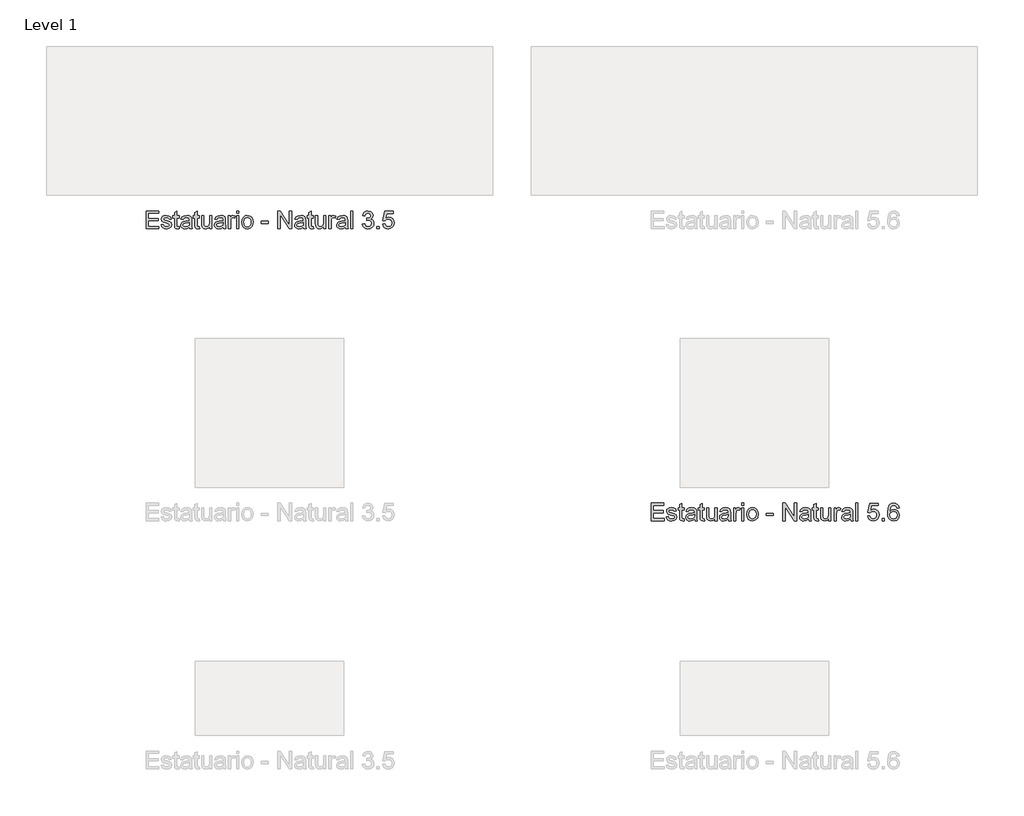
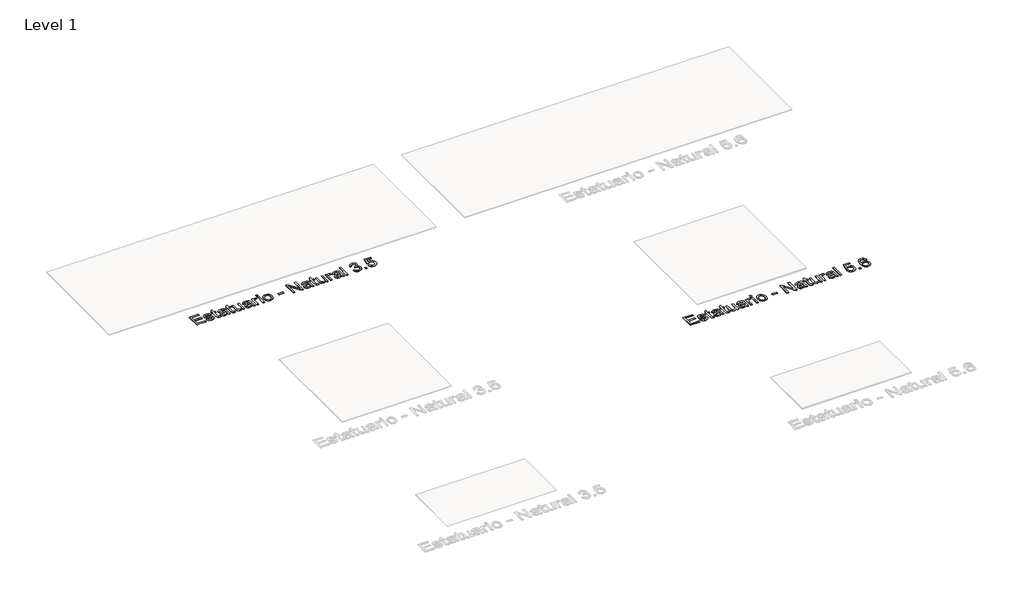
# One storey, part 79 of 80: 2 proxies.
"""IFC4 building model written with IfcOpenShell, lengths in millimetres."""

from ifc_helpers import new_model, si_unit, origin, origin_with_axes, place, context, project, spatial, polyline, outline, extrude, element, save

model = new_model("IFC4")

# Units and contexts
model_context = context("Model", 3, world=origin())
ifc_project = project(units=[si_unit("LENGTHUNIT", "METRE", prefix="MILLI")], contexts=[model_context])

# Site, building, storey
site = spatial("IfcSite", under=ifc_project)
building = spatial("IfcBuilding", under=site)
storey = spatial("IfcBuildingStorey", under=building, Name="Level 1", Elevation=0.0)

# Proxies
placement = place(None, origin())
element("IfcBuildingElementProxy", 1, Name="24\" Arial", ObjectType="24\" Arial", at=placement, inside=storey, context=model_context, shape_type="SweptSolid", body=[
    extrude(outline(polyline([(15900.3085075, 17258.6980297), (15900.3085075, 17376.8518759), (15985.2315844, 17376.8518759), (15985.2315844, 17362.0826451), (15915.0777383, 17362.0826451), (15915.0777383, 17327.005722), (15981.5392767, 17327.005722), (15981.5392767, 17312.2364912), (15915.0777383, 17312.2364912), (15915.0777383, 17273.4672605), (15987.0777383, 17273.4672605), (15987.0777383, 17258.6980297), (15900.3085075, 17258.6980297)])), origin_with_axes(), (0.0, 0.0, 1.0), 2.0),
    extrude(outline(polyline([(16001.846969, 17284.5441836), (16016.6161998, 17286.3903374), (16023.4527383, 17275.4287989), (16039.1161998, 17271.6211066), (16054.1738921, 17275.1114912), (16059.0777383, 17283.3037989), (16054.1450459, 17289.9384143), (16038.9431229, 17294.1499528), (16016.7027383, 17301.3759143), (16006.9960075, 17309.8134143), (16003.6931229, 17321.7268759), (16006.346969, 17332.7316836), (16013.5873536, 17341.1403374), (16022.9767767, 17345.5105297), (16035.6835075, 17347.3134143), (16053.6546613, 17344.4143759), (16065.0777383, 17336.568222), (16070.1546613, 17323.3134143), (16055.3854306, 17321.4672605), (16049.8325459, 17329.6162989), (16036.8373536, 17332.5441836), (16022.7027383, 17329.7461066), (16018.4623536, 17323.2268759), (16020.221969, 17318.9287989), (16025.7315844, 17315.6691836), (16038.4527383, 17312.5249528), (16060.1306229, 17305.5730297), (16070.1979306, 17297.6980297), (16073.846969, 17284.8614912), (16069.5633152, 17270.7268759), (16057.2027383, 17260.4720682), (16038.9142767, 17256.8518759), (16024.0224498, 17258.5970682), (16013.1546613, 17263.8326451), (16005.8998536, 17272.5009143), (16001.846969, 17284.5441836)])), origin_with_axes(), (0.0, 0.0, 1.0), 2.0),
    extrude(outline(polyline([(16121.846969, 17271.0153374), (16123.6931229, 17258.2653374), (16112.6450459, 17256.8518759), (16100.2700459, 17259.3037989), (16094.096969, 17265.7364912), (16092.3085075, 17282.4961066), (16092.3085075, 17330.6980297), (16081.2315844, 17330.6980297), (16081.2315844, 17345.4672605), (16092.3085075, 17345.4672605), (16092.3085075, 17366.5537989), (16107.0777383, 17375.2364912), (16107.0777383, 17345.4672605), (16121.846969, 17345.4672605), (16121.846969, 17330.6980297), (16107.0777383, 17330.6980297), (16107.0777383, 17282.9287989), (16107.8565844, 17275.3134143), (16110.3806229, 17272.6162989), (16115.4142767, 17271.6211066), (16121.846969, 17271.0153374)])), origin_with_axes(), (0.0, 0.0, 1.0), 2.0),
    extrude(outline(polyline([(16192.0008152, 17269.7749528), (16177.6786998, 17259.7653374), (16161.8565844, 17256.8518759), (16149.5140363, 17258.6042797), (16140.409469, 17263.8614912), (16134.7952863, 17271.8446643), (16132.9238921, 17281.7749528), (16135.7508152, 17293.4576451), (16143.1786998, 17301.9384143), (16153.5200459, 17306.7845682), (16166.2988921, 17309.005722), (16191.9142767, 17314.0826451), (16192.0008152, 17317.3711066), (16187.9335075, 17328.2749528), (16171.6065844, 17332.5441836), (16156.6642767, 17329.7028374), (16149.5392767, 17319.6211066), (16134.7700459, 17321.4672605), (16141.159469, 17335.8903374), (16154.0248536, 17344.3422605), (16173.5104306, 17347.3134143), (16191.409469, 17344.6884143), (16201.5200459, 17338.0970682), (16206.0488921, 17328.0730297), (16206.7700459, 17315.1499528), (16206.7700459, 17296.7749528), (16207.5200459, 17271.1162989), (16210.4623536, 17258.6980297), (16195.6931229, 17258.6980297), (16192.0008152, 17269.7749528)]), holes=[polyline([(16192.0008152, 17299.3134143), (16168.1738921, 17294.7845682), (16155.4671613, 17292.3903374), (16149.7123536, 17288.4961066), (16147.6931229, 17282.8134143), (16152.0921613, 17274.8230297), (16165.0008152, 17271.6211066), (16179.9431229, 17275.1547605), (16189.5777383, 17283.7076451), (16191.9142767, 17295.130722), (16192.0008152, 17299.3134143)])]), origin_with_axes(), (0.0, 0.0, 1.0), 2.0),
    extrude(outline(polyline([(16258.4623536, 17271.0153374), (16260.3085075, 17258.2653374), (16249.2604306, 17256.8518759), (16236.8854306, 17259.3037989), (16230.7123536, 17265.7364912), (16228.9238921, 17282.4961066), (16228.9238921, 17330.6980297), (16217.846969, 17330.6980297), (16217.846969, 17345.4672605), (16228.9238921, 17345.4672605), (16228.9238921, 17366.5537989), (16243.6931229, 17375.2364912), (16243.6931229, 17345.4672605), (16258.4623536, 17345.4672605), (16258.4623536, 17330.6980297), (16243.6931229, 17330.6980297), (16243.6931229, 17282.9287989), (16244.471969, 17275.3134143), (16246.9960075, 17272.6162989), (16252.0296613, 17271.6211066), (16258.4623536, 17271.0153374)])), origin_with_axes(), (0.0, 0.0, 1.0), 2.0),
    extrude(outline(polyline([(16328.6161998, 17258.6980297), (16328.6161998, 17273.6114912), (16317.0488921, 17261.0417797), (16301.9623536, 17256.8518759), (16288.0729306, 17259.7941836), (16278.4960075, 17267.1787989), (16274.096969, 17278.0537989), (16273.2315844, 17291.7845682), (16273.2315844, 17345.4672605), (16288.0008152, 17345.4672605), (16288.0008152, 17298.7364912), (16288.8950459, 17283.6787989), (16294.7363921, 17274.8374528), (16305.7411998, 17271.6211066), (16318.0729306, 17274.9095682), (16326.221969, 17283.8662989), (16328.6161998, 17300.3230297), (16328.6161998, 17345.4672605), (16343.3854306, 17345.4672605), (16343.3854306, 17258.6980297), (16328.6161998, 17258.6980297)])), origin_with_axes(), (0.0, 0.0, 1.0), 2.0),
    extrude(outline(polyline([(16419.0777383, 17269.7749528), (16404.7556229, 17259.7653374), (16388.9335075, 17256.8518759), (16376.5909594, 17258.6042797), (16367.4863921, 17263.8614912), (16361.8722094, 17271.8446643), (16360.0008152, 17281.7749528), (16362.8277383, 17293.4576451), (16370.2556229, 17301.9384143), (16380.596969, 17306.7845682), (16393.3758152, 17309.005722), (16418.9911998, 17314.0826451), (16419.0777383, 17317.3711066), (16415.0104306, 17328.2749528), (16398.6835075, 17332.5441836), (16383.7411998, 17329.7028374), (16376.6161998, 17319.6211066), (16361.846969, 17321.4672605), (16368.2363921, 17335.8903374), (16381.1017767, 17344.3422605), (16400.5873536, 17347.3134143), (16418.4863921, 17344.6884143), (16428.596969, 17338.0970682), (16433.1258152, 17328.0730297), (16433.846969, 17315.1499528), (16433.846969, 17296.7749528), (16434.596969, 17271.1162989), (16437.5392767, 17258.6980297), (16422.7700459, 17258.6980297), (16419.0777383, 17269.7749528)]), holes=[polyline([(16419.0777383, 17299.3134143), (16395.2508152, 17294.7845682), (16382.5440844, 17292.3903374), (16376.7892767, 17288.4961066), (16374.7700459, 17282.8134143), (16379.1690844, 17274.8230297), (16392.0777383, 17271.6211066), (16407.0200459, 17275.1547605), (16416.6546613, 17283.7076451), (16418.9911998, 17295.130722), (16419.0777383, 17299.3134143)])]), origin_with_axes(), (0.0, 0.0, 1.0), 2.0),
    extrude(outline(polyline([(16454.1546613, 17258.6980297), (16454.1546613, 17345.4672605), (16467.0777383, 17345.4672605), (16467.0777383, 17332.630722), (16476.2508152, 17344.4576451), (16485.4815844, 17347.3134143), (16500.3085075, 17342.755722), (16495.3758152, 17329.5153374), (16484.9911998, 17332.5441836), (16476.6402383, 17329.630722), (16471.3181229, 17321.5537989), (16468.9238921, 17304.3037989), (16468.9238921, 17258.6980297), (16454.1546613, 17258.6980297)])), origin_with_axes(), (0.0, 0.0, 1.0), 2.0),
    extrude(outline(polyline([(16509.5392767, 17362.0826451), (16509.5392767, 17376.8518759), (16524.3085075, 17376.8518759), (16524.3085075, 17362.0826451), (16509.5392767, 17362.0826451)])), origin_with_axes(), (0.0, 0.0, 1.0), 2.0),
    extrude(outline(polyline([(16509.5392767, 17258.6980297), (16509.5392767, 17345.4672605), (16524.3085075, 17345.4672605), (16524.3085075, 17258.6980297), (16509.5392767, 17258.6980297)])), origin_with_axes(), (0.0, 0.0, 1.0), 2.0),
    extrude(outline(polyline([(16542.7700459, 17302.0826451), (16545.9647575, 17323.0033182), (16555.5488921, 17337.7076451), (16567.3902383, 17344.911972), (16581.5681229, 17347.3134143), (16597.0837479, 17344.3891355), (16609.4767767, 17335.6162989), (16617.6005748, 17321.6872124), (16620.3085075, 17303.2941836), (16615.5200459, 17277.0153374), (16601.5729306, 17262.1451451), (16581.5681229, 17256.8518759), (16565.8649979, 17259.7653374), (16553.4863921, 17268.505722), (16545.4491325, 17282.7268759), (16542.7700459, 17302.0826451)]), holes=[polyline([(16557.5392767, 17302.1114912), (16559.2484113, 17288.7449047), (16564.3758152, 17279.2220682), (16572.0921613, 17273.521347), (16581.5681229, 17271.6211066), (16591.0008152, 17273.5321643), (16598.7027383, 17279.2653374), (16603.8301421, 17288.9143759), (16605.5392767, 17302.5730297), (16603.8193248, 17315.5501932), (16598.659469, 17324.943222), (16590.9467286, 17330.6439432), (16581.5681229, 17332.5441836), (16572.0921613, 17330.6511547), (16564.3758152, 17324.9720682), (16559.2484113, 17315.4708662), (16557.5392767, 17302.1114912)])]), origin_with_axes(), (0.0, 0.0, 1.0), 2.0),
    extrude(outline(polyline([(16675.6931229, 17293.7749528), (16675.6931229, 17308.5441836), (16721.846969, 17308.5441836), (16721.846969, 17293.7749528), (16675.6931229, 17293.7749528)])), origin_with_axes(), (0.0, 0.0, 1.0), 2.0),
    extrude(outline(polyline([(16786.4623536, 17258.6980297), (16786.4623536, 17376.8518759), (16802.2700459, 17376.8518759), (16864.0008152, 17283.2461066), (16864.0008152, 17376.8518759), (16878.7700459, 17376.8518759), (16878.7700459, 17258.6980297), (16862.9623536, 17258.6980297), (16801.2315844, 17352.3326451), (16801.2315844, 17258.6980297), (16786.4623536, 17258.6980297)])), origin_with_axes(), (0.0, 0.0, 1.0), 2.0),
    extrude(outline(polyline([(16958.1546613, 17269.7749528), (16943.8325459, 17259.7653374), (16928.0104306, 17256.8518759), (16915.6678825, 17258.6042797), (16906.5633152, 17263.8614912), (16900.9491325, 17271.8446643), (16899.0777383, 17281.7749528), (16901.9046613, 17293.4576451), (16909.3325459, 17301.9384143), (16919.6738921, 17306.7845682), (16932.4527383, 17309.005722), (16958.0681229, 17314.0826451), (16958.1546613, 17317.3711066), (16954.0873536, 17328.2749528), (16937.7604306, 17332.5441836), (16922.8181229, 17329.7028374), (16915.6931229, 17319.6211066), (16900.9238921, 17321.4672605), (16907.3133152, 17335.8903374), (16920.1786998, 17344.3422605), (16939.6642767, 17347.3134143), (16957.5633152, 17344.6884143), (16967.6738921, 17338.0970682), (16972.2027383, 17328.0730297), (16972.9238921, 17315.1499528), (16972.9238921, 17296.7749528), (16973.6738921, 17271.1162989), (16976.6161998, 17258.6980297), (16961.846969, 17258.6980297), (16958.1546613, 17269.7749528)]), holes=[polyline([(16958.1546613, 17299.3134143), (16934.3277383, 17294.7845682), (16921.6210075, 17292.3903374), (16915.8661998, 17288.4961066), (16913.846969, 17282.8134143), (16918.2460075, 17274.8230297), (16931.1546613, 17271.6211066), (16946.096969, 17275.1547605), (16955.7315844, 17283.7076451), (16958.0681229, 17295.130722), (16958.1546613, 17299.3134143)])]), origin_with_axes(), (0.0, 0.0, 1.0), 2.0),
    extrude(outline(polyline([(17024.6161998, 17271.0153374), (17026.4623536, 17258.2653374), (17015.4142767, 17256.8518759), (17003.0392767, 17259.3037989), (16996.8661998, 17265.7364912), (16995.0777383, 17282.4961066), (16995.0777383, 17330.6980297), (16984.0008152, 17330.6980297), (16984.0008152, 17345.4672605), (16995.0777383, 17345.4672605), (16995.0777383, 17366.5537989), (17009.846969, 17375.2364912), (17009.846969, 17345.4672605), (17024.6161998, 17345.4672605), (17024.6161998, 17330.6980297), (17009.846969, 17330.6980297), (17009.846969, 17282.9287989), (17010.6258152, 17275.3134143), (17013.1498536, 17272.6162989), (17018.1835075, 17271.6211066), (17024.6161998, 17271.0153374)])), origin_with_axes(), (0.0, 0.0, 1.0), 2.0),
    extrude(outline(polyline([(17094.7700459, 17258.6980297), (17094.7700459, 17273.6114912), (17083.2027383, 17261.0417797), (17068.1161998, 17256.8518759), (17054.2267767, 17259.7941836), (17044.6498536, 17267.1787989), (17040.2508152, 17278.0537989), (17039.3854306, 17291.7845682), (17039.3854306, 17345.4672605), (17054.1546613, 17345.4672605), (17054.1546613, 17298.7364912), (17055.0488921, 17283.6787989), (17060.8902383, 17274.8374528), (17071.8950459, 17271.6211066), (17084.2267767, 17274.9095682), (17092.3758152, 17283.8662989), (17094.7700459, 17300.3230297), (17094.7700459, 17345.4672605), (17109.5392767, 17345.4672605), (17109.5392767, 17258.6980297), (17094.7700459, 17258.6980297)])), origin_with_axes(), (0.0, 0.0, 1.0), 2.0),
    extrude(outline(polyline([(17129.846969, 17258.6980297), (17129.846969, 17345.4672605), (17142.7700459, 17345.4672605), (17142.7700459, 17332.630722), (17151.9431229, 17344.4576451), (17161.1738921, 17347.3134143), (17176.0008152, 17342.755722), (17171.0681229, 17329.5153374), (17160.6835075, 17332.5441836), (17152.3325459, 17329.630722), (17147.0104306, 17321.5537989), (17144.6161998, 17304.3037989), (17144.6161998, 17258.6980297), (17129.846969, 17258.6980297)])), origin_with_axes(), (0.0, 0.0, 1.0), 2.0),
    extrude(outline(polyline([(17240.6161998, 17269.7749528), (17226.2940844, 17259.7653374), (17210.471969, 17256.8518759), (17198.1294209, 17258.6042797), (17189.0248536, 17263.8614912), (17183.4106709, 17271.8446643), (17181.5392767, 17281.7749528), (17184.3661998, 17293.4576451), (17191.7940844, 17301.9384143), (17202.1354306, 17306.7845682), (17214.9142767, 17309.005722), (17240.5296613, 17314.0826451), (17240.6161998, 17317.3711066), (17236.5488921, 17328.2749528), (17220.221969, 17332.5441836), (17205.2796613, 17329.7028374), (17198.1546613, 17319.6211066), (17183.3854306, 17321.4672605), (17189.7748536, 17335.8903374), (17202.6402383, 17344.3422605), (17222.1258152, 17347.3134143), (17240.0248536, 17344.6884143), (17250.1354306, 17338.0970682), (17254.6642767, 17328.0730297), (17255.3854306, 17315.1499528), (17255.3854306, 17296.7749528), (17256.1354306, 17271.1162989), (17259.0777383, 17258.6980297), (17244.3085075, 17258.6980297), (17240.6161998, 17269.7749528)]), holes=[polyline([(17240.6161998, 17299.3134143), (17216.7892767, 17294.7845682), (17204.0825459, 17292.3903374), (17198.3277383, 17288.4961066), (17196.3085075, 17282.8134143), (17200.7075459, 17274.8230297), (17213.6161998, 17271.6211066), (17228.5585075, 17275.1547605), (17238.1931229, 17283.7076451), (17240.5296613, 17295.130722), (17240.6161998, 17299.3134143)])]), origin_with_axes(), (0.0, 0.0, 1.0), 2.0),
    extrude(outline(polyline([(17275.6931229, 17258.6980297), (17275.6931229, 17376.8518759), (17290.4623536, 17376.8518759), (17290.4623536, 17258.6980297), (17275.6931229, 17258.6980297)])), origin_with_axes(), (0.0, 0.0, 1.0), 2.0),
    extrude(outline(polyline([(17355.0777383, 17290.0826451), (17369.846969, 17291.9287989), (17377.2892767, 17276.7124528), (17392.721969, 17271.6211066), (17403.3085075, 17273.3915393), (17411.2411998, 17278.7028374), (17416.1955267, 17286.9420201), (17417.846969, 17297.4961066), (17416.300094, 17307.4336066), (17411.659469, 17315.0345682), (17403.8890363, 17319.8590874), (17392.9527383, 17321.4672605), (17379.9863921, 17318.8999528), (17371.6931229, 17312.2364912), (17356.9238921, 17314.0826451), (17369.846969, 17375.005722), (17427.0777383, 17375.005722), (17427.0777383, 17360.2364912), (17381.7892767, 17360.2364912), (17375.471969, 17327.6980297), (17386.0224498, 17334.1018759), (17397.0777383, 17336.2364912), (17410.8770171, 17333.5898566), (17422.3325459, 17325.6499528), (17430.0452863, 17313.5489912), (17432.6161998, 17298.4191836), (17430.3012959, 17283.6499528), (17423.3565844, 17271.0153374), (17410.0585075, 17260.3927412), (17392.6642767, 17256.8518759), (17378.1582671, 17259.1271162), (17366.6017767, 17265.9528374), (17358.6799017, 17276.5357701), (17355.0777383, 17290.0826451)])), origin_with_axes(), (0.0, 0.0, 1.0), 2.0),
    extrude(outline(polyline([(17452.9238921, 17258.6980297), (17452.9238921, 17273.4672605), (17467.6931229, 17273.4672605), (17467.6931229, 17258.6980297), (17452.9238921, 17258.6980297)])), origin_with_axes(), (0.0, 0.0, 1.0), 2.0),
    extrude(outline(polyline([(17567.3854306, 17345.4672605), (17552.6161998, 17343.6211066), (17547.0200459, 17355.9384143), (17540.3205267, 17360.5465874), (17532.221969, 17362.0826451), (17518.8950459, 17358.505722), (17508.8133152, 17345.0778374), (17504.6161998, 17318.755722), (17517.6402383, 17330.5393759), (17533.7796613, 17334.3903374), (17547.4238921, 17331.7581259), (17558.8758152, 17323.8614912), (17566.6426421, 17311.7965874), (17569.2315844, 17296.6595682), (17564.3565844, 17276.2797605), (17550.9431229, 17261.8566836), (17531.5873536, 17256.8518759), (17514.831344, 17260.1691836), (17501.4863921, 17270.1211066), (17492.7568248, 17287.6884143), (17489.846969, 17313.8518759), (17493.0777383, 17343.2677412), (17502.7700459, 17363.380722), (17516.003219, 17373.4840874), (17533.1450459, 17376.8518759), (17546.1041806, 17374.7677412), (17556.4815844, 17368.5153374), (17563.7508152, 17358.5850489), (17567.3854306, 17345.4672605)]), holes=[polyline([(17504.6161998, 17296.8903374), (17508.034469, 17284.0970682), (17517.1210075, 17274.8086066), (17530.4335075, 17271.6211066), (17540.1799017, 17273.2725489), (17547.8421613, 17278.2268759), (17552.8073056, 17286.0153374), (17554.4623536, 17296.1691836), (17552.8289402, 17305.9155778), (17547.9286998, 17313.3470682), (17540.1366325, 17318.052597), (17529.8277383, 17319.6211066), (17520.0957671, 17318.052597), (17511.9575459, 17313.3470682), (17506.4515363, 17306.0958662), (17504.6161998, 17296.8903374)])]), origin_with_axes(), (0.0, 0.0, 1.0), 2.0),
])
element("IfcBuildingElementProxy", 2, Name="24\" Arial", ObjectType="24\" Arial", at=placement, inside=storey, context=model_context, shape_type="SweptSolid", body=[
    extrude(outline(polyline([(12503.6931229, 19224.0250725), (12503.6931229, 19342.1789187), (12588.6161998, 19342.1789187), (12588.6161998, 19327.4096879), (12518.4623536, 19327.4096879), (12518.4623536, 19292.3327648), (12584.9238921, 19292.3327648), (12584.9238921, 19277.563534), (12518.4623536, 19277.563534), (12518.4623536, 19238.7943033), (12590.4623536, 19238.7943033), (12590.4623536, 19224.0250725), (12503.6931229, 19224.0250725)])), origin_with_axes(), (0.0, 0.0, 1.0), 2.0),
    extrude(outline(polyline([(12605.2315844, 19249.8712264), (12620.0008152, 19251.7173802), (12626.8373536, 19240.7558417), (12642.5008152, 19236.9481494), (12657.5585075, 19240.438534), (12662.4623536, 19248.6308417), (12657.5296613, 19255.2654571), (12642.3277383, 19259.4769956), (12620.0873536, 19266.7029571), (12610.3806229, 19275.1404571), (12607.0777383, 19287.0539187), (12609.7315844, 19298.0587264), (12616.971969, 19306.4673802), (12626.3613921, 19310.8375725), (12639.0681229, 19312.6404571), (12657.0392767, 19309.7414187), (12668.4623536, 19301.8952648), (12673.5392767, 19288.6404571), (12658.7700459, 19286.7943033), (12653.2171613, 19294.9433417), (12640.221969, 19297.8712264), (12626.0873536, 19295.0731494), (12621.846969, 19288.5539187), (12623.6065844, 19284.2558417), (12629.1161998, 19280.9962264), (12641.8373536, 19277.8519956), (12663.5152383, 19270.9000725), (12673.5825459, 19263.0250725), (12677.2315844, 19250.188534), (12672.9479306, 19236.0539187), (12660.5873536, 19225.799111), (12642.2988921, 19222.1789187), (12627.4070652, 19223.924111), (12616.5392767, 19229.1596879), (12609.284469, 19237.8279571), (12605.2315844, 19249.8712264)])), origin_with_axes(), (0.0, 0.0, 1.0), 2.0),
    extrude(outline(polyline([(12725.2315844, 19236.3423802), (12727.0777383, 19223.5923802), (12716.0296613, 19222.1789187), (12703.6546613, 19224.6308417), (12697.4815844, 19231.063534), (12695.6931229, 19247.8231494), (12695.6931229, 19296.0250725), (12684.6161998, 19296.0250725), (12684.6161998, 19310.7943033), (12695.6931229, 19310.7943033), (12695.6931229, 19331.8808417), (12710.4623536, 19340.563534), (12710.4623536, 19310.7943033), (12725.2315844, 19310.7943033), (12725.2315844, 19296.0250725), (12710.4623536, 19296.0250725), (12710.4623536, 19248.2558417), (12711.2411998, 19240.6404571), (12713.7652383, 19237.9433417), (12718.7988921, 19236.9481494), (12725.2315844, 19236.3423802)])), origin_with_axes(), (0.0, 0.0, 1.0), 2.0),
    extrude(outline(polyline([(12795.3854306, 19235.1019956), (12781.0633152, 19225.0923802), (12765.2411998, 19222.1789187), (12752.8986517, 19223.9313225), (12743.7940844, 19229.188534), (12738.1799017, 19237.1717071), (12736.3085075, 19247.1019956), (12739.1354306, 19258.7846879), (12746.5633152, 19267.2654571), (12756.9046613, 19272.111611), (12769.6835075, 19274.3327648), (12795.2988921, 19279.4096879), (12795.3854306, 19282.6981494), (12791.3181229, 19293.6019956), (12774.9911998, 19297.8712264), (12760.0488921, 19295.0298802), (12752.9238921, 19284.9481494), (12738.1546613, 19286.7943033), (12744.5440844, 19301.2173802), (12757.409469, 19309.6693033), (12776.8950459, 19312.6404571), (12794.7940844, 19310.0154571), (12804.9046613, 19303.424111), (12809.4335075, 19293.4000725), (12810.1546613, 19280.4769956), (12810.1546613, 19262.1019956), (12810.9046613, 19236.4433417), (12813.846969, 19224.0250725), (12799.0777383, 19224.0250725), (12795.3854306, 19235.1019956)]), holes=[polyline([(12795.3854306, 19264.6404571), (12771.5585075, 19260.111611), (12758.8517767, 19257.7173802), (12753.096969, 19253.8231494), (12751.0777383, 19248.1404571), (12755.4767767, 19240.1500725), (12768.3854306, 19236.9481494), (12783.3277383, 19240.4818033), (12792.9623536, 19249.0346879), (12795.2988921, 19260.4577648), (12795.3854306, 19264.6404571)])]), origin_with_axes(), (0.0, 0.0, 1.0), 2.0),
    extrude(outline(polyline([(12861.846969, 19236.3423802), (12863.6931229, 19223.5923802), (12852.6450459, 19222.1789187), (12840.2700459, 19224.6308417), (12834.096969, 19231.063534), (12832.3085075, 19247.8231494), (12832.3085075, 19296.0250725), (12821.2315844, 19296.0250725), (12821.2315844, 19310.7943033), (12832.3085075, 19310.7943033), (12832.3085075, 19331.8808417), (12847.0777383, 19340.563534), (12847.0777383, 19310.7943033), (12861.846969, 19310.7943033), (12861.846969, 19296.0250725), (12847.0777383, 19296.0250725), (12847.0777383, 19248.2558417), (12847.8565844, 19240.6404571), (12850.3806229, 19237.9433417), (12855.4142767, 19236.9481494), (12861.846969, 19236.3423802)])), origin_with_axes(), (0.0, 0.0, 1.0), 2.0),
    extrude(outline(polyline([(12932.0008152, 19224.0250725), (12932.0008152, 19238.938534), (12920.4335075, 19226.3688225), (12905.346969, 19222.1789187), (12891.4575459, 19225.1212264), (12881.8806229, 19232.5058417), (12877.4815844, 19243.3808417), (12876.6161998, 19257.111611), (12876.6161998, 19310.7943033), (12891.3854306, 19310.7943033), (12891.3854306, 19264.063534), (12892.2796613, 19249.0058417), (12898.1210075, 19240.1644956), (12909.1258152, 19236.9481494), (12921.4575459, 19240.236611), (12929.6065844, 19249.1933417), (12932.0008152, 19265.6500725), (12932.0008152, 19310.7943033), (12946.7700459, 19310.7943033), (12946.7700459, 19224.0250725), (12932.0008152, 19224.0250725)])), origin_with_axes(), (0.0, 0.0, 1.0), 2.0),
    extrude(outline(polyline([(13022.4623536, 19235.1019956), (13008.1402383, 19225.0923802), (12992.3181229, 19222.1789187), (12979.9755748, 19223.9313225), (12970.8710075, 19229.188534), (12965.2568248, 19237.1717071), (12963.3854306, 19247.1019956), (12966.2123536, 19258.7846879), (12973.6402383, 19267.2654571), (12983.9815844, 19272.111611), (12996.7604306, 19274.3327648), (13022.3758152, 19279.4096879), (13022.4623536, 19282.6981494), (13018.3950459, 19293.6019956), (13002.0681229, 19297.8712264), (12987.1258152, 19295.0298802), (12980.0008152, 19284.9481494), (12965.2315844, 19286.7943033), (12971.6210075, 19301.2173802), (12984.4863921, 19309.6693033), (13003.971969, 19312.6404571), (13021.8710075, 19310.0154571), (13031.9815844, 19303.424111), (13036.5104306, 19293.4000725), (13037.2315844, 19280.4769956), (13037.2315844, 19262.1019956), (13037.9815844, 19236.4433417), (13040.9238921, 19224.0250725), (13026.1546613, 19224.0250725), (13022.4623536, 19235.1019956)]), holes=[polyline([(13022.4623536, 19264.6404571), (12998.6354306, 19260.111611), (12985.9286998, 19257.7173802), (12980.1738921, 19253.8231494), (12978.1546613, 19248.1404571), (12982.5536998, 19240.1500725), (12995.4623536, 19236.9481494), (13010.4046613, 19240.4818033), (13020.0392767, 19249.0346879), (13022.3758152, 19260.4577648), (13022.4623536, 19264.6404571)])]), origin_with_axes(), (0.0, 0.0, 1.0), 2.0),
    extrude(outline(polyline([(13057.5392767, 19224.0250725), (13057.5392767, 19310.7943033), (13070.4623536, 19310.7943033), (13070.4623536, 19297.9577648), (13079.6354306, 19309.7846879), (13088.8661998, 19312.6404571), (13103.6931229, 19308.0827648), (13098.7604306, 19294.8423802), (13088.3758152, 19297.8712264), (13080.0248536, 19294.9577648), (13074.7027383, 19286.8808417), (13072.3085075, 19269.6308417), (13072.3085075, 19224.0250725), (13057.5392767, 19224.0250725)])), origin_with_axes(), (0.0, 0.0, 1.0), 2.0),
    extrude(outline(polyline([(13112.9238921, 19327.4096879), (13112.9238921, 19342.1789187), (13127.6931229, 19342.1789187), (13127.6931229, 19327.4096879), (13112.9238921, 19327.4096879)])), origin_with_axes(), (0.0, 0.0, 1.0), 2.0),
    extrude(outline(polyline([(13112.9238921, 19224.0250725), (13112.9238921, 19310.7943033), (13127.6931229, 19310.7943033), (13127.6931229, 19224.0250725), (13112.9238921, 19224.0250725)])), origin_with_axes(), (0.0, 0.0, 1.0), 2.0),
    extrude(outline(polyline([(13146.1546613, 19267.4096879), (13149.3493729, 19288.330361), (13158.9335075, 19303.0346879), (13170.7748536, 19310.2390148), (13184.9527383, 19312.6404571), (13200.4683633, 19309.7161783), (13212.8613921, 19300.9433417), (13220.9851902, 19287.0142552), (13223.6931229, 19268.6212264), (13218.9046613, 19242.3423802), (13204.9575459, 19227.4721879), (13184.9527383, 19222.1789187), (13169.2496133, 19225.0923802), (13156.8710075, 19233.8327648), (13148.8337479, 19248.0539187), (13146.1546613, 19267.4096879)]), holes=[polyline([(13160.9238921, 19267.438534), (13162.6330267, 19254.0719475), (13167.7604306, 19244.549111), (13175.4767767, 19238.8483898), (13184.9527383, 19236.9481494), (13194.3854306, 19238.8592071), (13202.0873536, 19244.5923802), (13207.2147575, 19254.2414187), (13208.9238921, 19267.9000725), (13207.2039402, 19280.877236), (13202.0440844, 19290.2702648), (13194.331344, 19295.970986), (13184.9527383, 19297.8712264), (13175.4767767, 19295.9781975), (13167.7604306, 19290.299111), (13162.6330267, 19280.797909), (13160.9238921, 19267.438534)])]), origin_with_axes(), (0.0, 0.0, 1.0), 2.0),
    extrude(outline(polyline([(13279.0777383, 19259.1019956), (13279.0777383, 19273.8712264), (13325.2315844, 19273.8712264), (13325.2315844, 19259.1019956), (13279.0777383, 19259.1019956)])), origin_with_axes(), (0.0, 0.0, 1.0), 2.0),
    extrude(outline(polyline([(13389.846969, 19224.0250725), (13389.846969, 19342.1789187), (13405.6546613, 19342.1789187), (13467.3854306, 19248.5731494), (13467.3854306, 19342.1789187), (13482.1546613, 19342.1789187), (13482.1546613, 19224.0250725), (13466.346969, 19224.0250725), (13404.6161998, 19317.6596879), (13404.6161998, 19224.0250725), (13389.846969, 19224.0250725)])), origin_with_axes(), (0.0, 0.0, 1.0), 2.0),
    extrude(outline(polyline([(13561.5392767, 19235.1019956), (13547.2171613, 19225.0923802), (13531.3950459, 19222.1789187), (13519.0524979, 19223.9313225), (13509.9479306, 19229.188534), (13504.3337479, 19237.1717071), (13502.4623536, 19247.1019956), (13505.2892767, 19258.7846879), (13512.7171613, 19267.2654571), (13523.0585075, 19272.111611), (13535.8373536, 19274.3327648), (13561.4527383, 19279.4096879), (13561.5392767, 19282.6981494), (13557.471969, 19293.6019956), (13541.1450459, 19297.8712264), (13526.2027383, 19295.0298802), (13519.0777383, 19284.9481494), (13504.3085075, 19286.7943033), (13510.6979306, 19301.2173802), (13523.5633152, 19309.6693033), (13543.0488921, 19312.6404571), (13560.9479306, 19310.0154571), (13571.0585075, 19303.424111), (13575.5873536, 19293.4000725), (13576.3085075, 19280.4769956), (13576.3085075, 19262.1019956), (13577.0585075, 19236.4433417), (13580.0008152, 19224.0250725), (13565.2315844, 19224.0250725), (13561.5392767, 19235.1019956)]), holes=[polyline([(13561.5392767, 19264.6404571), (13537.7123536, 19260.111611), (13525.0056229, 19257.7173802), (13519.2508152, 19253.8231494), (13517.2315844, 19248.1404571), (13521.6306229, 19240.1500725), (13534.5392767, 19236.9481494), (13549.4815844, 19240.4818033), (13559.1161998, 19249.0346879), (13561.4527383, 19260.4577648), (13561.5392767, 19264.6404571)])]), origin_with_axes(), (0.0, 0.0, 1.0), 2.0),
    extrude(outline(polyline([(13628.0008152, 19236.3423802), (13629.846969, 19223.5923802), (13618.7988921, 19222.1789187), (13606.4238921, 19224.6308417), (13600.2508152, 19231.063534), (13598.4623536, 19247.8231494), (13598.4623536, 19296.0250725), (13587.3854306, 19296.0250725), (13587.3854306, 19310.7943033), (13598.4623536, 19310.7943033), (13598.4623536, 19331.8808417), (13613.2315844, 19340.563534), (13613.2315844, 19310.7943033), (13628.0008152, 19310.7943033), (13628.0008152, 19296.0250725), (13613.2315844, 19296.0250725), (13613.2315844, 19248.2558417), (13614.0104306, 19240.6404571), (13616.534469, 19237.9433417), (13621.5681229, 19236.9481494), (13628.0008152, 19236.3423802)])), origin_with_axes(), (0.0, 0.0, 1.0), 2.0),
    extrude(outline(polyline([(13698.1546613, 19224.0250725), (13698.1546613, 19238.938534), (13686.5873536, 19226.3688225), (13671.5008152, 19222.1789187), (13657.6113921, 19225.1212264), (13648.034469, 19232.5058417), (13643.6354306, 19243.3808417), (13642.7700459, 19257.111611), (13642.7700459, 19310.7943033), (13657.5392767, 19310.7943033), (13657.5392767, 19264.063534), (13658.4335075, 19249.0058417), (13664.2748536, 19240.1644956), (13675.2796613, 19236.9481494), (13687.6113921, 19240.236611), (13695.7604306, 19249.1933417), (13698.1546613, 19265.6500725), (13698.1546613, 19310.7943033), (13712.9238921, 19310.7943033), (13712.9238921, 19224.0250725), (13698.1546613, 19224.0250725)])), origin_with_axes(), (0.0, 0.0, 1.0), 2.0),
    extrude(outline(polyline([(13733.2315844, 19224.0250725), (13733.2315844, 19310.7943033), (13746.1546613, 19310.7943033), (13746.1546613, 19297.9577648), (13755.3277383, 19309.7846879), (13764.5585075, 19312.6404571), (13779.3854306, 19308.0827648), (13774.4527383, 19294.8423802), (13764.0681229, 19297.8712264), (13755.7171613, 19294.9577648), (13750.3950459, 19286.8808417), (13748.0008152, 19269.6308417), (13748.0008152, 19224.0250725), (13733.2315844, 19224.0250725)])), origin_with_axes(), (0.0, 0.0, 1.0), 2.0),
    extrude(outline(polyline([(13844.0008152, 19235.1019956), (13829.6786998, 19225.0923802), (13813.8565844, 19222.1789187), (13801.5140363, 19223.9313225), (13792.409469, 19229.188534), (13786.7952863, 19237.1717071), (13784.9238921, 19247.1019956), (13787.7508152, 19258.7846879), (13795.1786998, 19267.2654571), (13805.5200459, 19272.111611), (13818.2988921, 19274.3327648), (13843.9142767, 19279.4096879), (13844.0008152, 19282.6981494), (13839.9335075, 19293.6019956), (13823.6065844, 19297.8712264), (13808.6642767, 19295.0298802), (13801.5392767, 19284.9481494), (13786.7700459, 19286.7943033), (13793.159469, 19301.2173802), (13806.0248536, 19309.6693033), (13825.5104306, 19312.6404571), (13843.409469, 19310.0154571), (13853.5200459, 19303.424111), (13858.0488921, 19293.4000725), (13858.7700459, 19280.4769956), (13858.7700459, 19262.1019956), (13859.5200459, 19236.4433417), (13862.4623536, 19224.0250725), (13847.6931229, 19224.0250725), (13844.0008152, 19235.1019956)]), holes=[polyline([(13844.0008152, 19264.6404571), (13820.1738921, 19260.111611), (13807.4671613, 19257.7173802), (13801.7123536, 19253.8231494), (13799.6931229, 19248.1404571), (13804.0921613, 19240.1500725), (13817.0008152, 19236.9481494), (13831.9431229, 19240.4818033), (13841.5777383, 19249.0346879), (13843.9142767, 19260.4577648), (13844.0008152, 19264.6404571)])]), origin_with_axes(), (0.0, 0.0, 1.0), 2.0),
    extrude(outline(polyline([(13879.0777383, 19224.0250725), (13879.0777383, 19342.1789187), (13893.846969, 19342.1789187), (13893.846969, 19224.0250725), (13879.0777383, 19224.0250725)])), origin_with_axes(), (0.0, 0.0, 1.0), 2.0),
    extrude(outline(polyline([(13958.4623536, 19255.4096879), (13973.2315844, 19257.2558417), (13981.3806229, 19241.7077648), (13996.6258152, 19236.9481494), (14006.7508152, 19238.5851687), (14014.5681229, 19243.4962264), (14019.565719, 19250.8231494), (14021.2315844, 19259.7077648), (14019.5801421, 19268.141659), (14014.6258152, 19274.9818033), (14007.1258152, 19279.5142552), (13997.8373536, 19281.0250725), (13987.4815844, 19279.4096879), (13989.1258152, 19294.1789187), (13991.4911998, 19294.0058417), (14008.2508152, 19298.2462264), (14013.8325459, 19303.626034), (14015.6931229, 19311.2846879), (14010.2988921, 19322.8375725), (13996.3950459, 19327.4096879), (13982.3181229, 19322.7943033), (13975.0777383, 19308.9481494), (13960.3085075, 19310.7943033), (13964.6570652, 19324.0563225), (13972.3950459, 19333.9577648), (13982.9815844, 19340.1236302), (13995.8758152, 19342.1789187), (14013.6883152, 19338.126034), (14026.1498536, 19327.049111), (14030.4623536, 19312.1500725), (14026.3661998, 19298.5346879), (14014.2508152, 19288.7558417), (14023.4960075, 19285.0202648), (14030.346969, 19278.6596879), (14034.5873536, 19270.0202648), (14036.0008152, 19259.4481494), (14033.1738921, 19245.0539187), (14024.6931229, 19233.0250725), (14011.8926421, 19224.8904571), (13996.1065844, 19222.1789187), (13981.8277383, 19224.4938225), (13970.2027383, 19231.438534), (13962.1186036, 19242.0611302), (13958.4623536, 19255.4096879)])), origin_with_axes(), (0.0, 0.0, 1.0), 2.0),
    extrude(outline(polyline([(14056.3085075, 19224.0250725), (14056.3085075, 19238.7943033), (14071.0777383, 19238.7943033), (14071.0777383, 19224.0250725), (14056.3085075, 19224.0250725)])), origin_with_axes(), (0.0, 0.0, 1.0), 2.0),
    extrude(outline(polyline([(14095.0777383, 19255.4096879), (14109.846969, 19257.2558417), (14117.2892767, 19242.0394956), (14132.721969, 19236.9481494), (14143.3085075, 19238.7185821), (14151.2411998, 19244.0298802), (14156.1955267, 19252.2690629), (14157.846969, 19262.8231494), (14156.300094, 19272.7606494), (14151.659469, 19280.361611), (14143.8890363, 19285.1861302), (14132.9527383, 19286.7943033), (14119.9863921, 19284.2269956), (14111.6931229, 19277.563534), (14096.9238921, 19279.4096879), (14109.846969, 19340.3327648), (14167.0777383, 19340.3327648), (14167.0777383, 19325.563534), (14121.7892767, 19325.563534), (14115.471969, 19293.0250725), (14126.0224498, 19299.4289187), (14137.0777383, 19301.563534), (14150.8770171, 19298.9168994), (14162.3325459, 19290.9769956), (14170.0452863, 19278.876034), (14172.6161998, 19263.7462264), (14170.3012959, 19248.9769956), (14163.3565844, 19236.3423802), (14150.0585075, 19225.719784), (14132.6642767, 19222.1789187), (14118.1582671, 19224.454159), (14106.6017767, 19231.2798802), (14098.6799017, 19241.8628129), (14095.0777383, 19255.4096879)])), origin_with_axes(), (0.0, 0.0, 1.0), 2.0),
])

save(model, "model.ifc")
